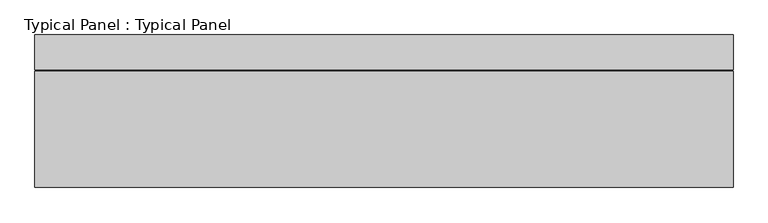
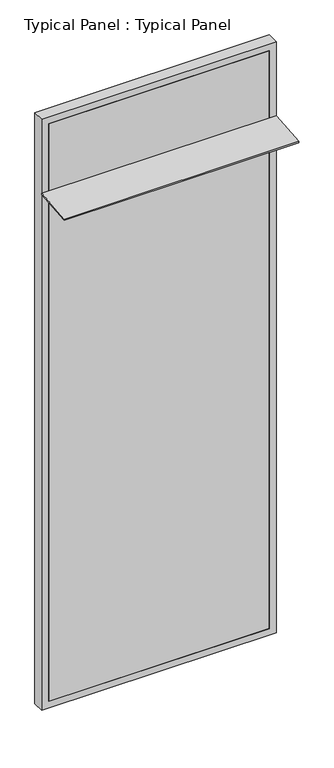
"""IFC4 building model written with IfcOpenShell, lengths in millimetres: plate geometry, Typical Panel : Typical Panel."""

from ifc_helpers import new_model, si_unit, frame, origin, place, context, project, spatial, polyline, outline, extrude, source, transform, mapped, element, save


def typical_panel_typical_panel_199775df(model_context):
    return source(origin(), model_context, "Body", "SweptSolid", [
        extrude(outline(polyline([(0.0, -250.0), (0.0, 0.0), (1500.0, 0.0), (1500.0, -250.0), (0.0, -250.0)])), frame((750.0, -253.1771171, 3468.2491173), z_axis=(0.0, -0.0871557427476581, 0.9961946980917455), x_axis=(-1.0, 0.0, 0.0)), (0.0, 0.0, 1.0), 10.0),
        extrude(outline(polyline([(0.0, -750.0), (0.0, 750.0), (4000.0, 750.0), (4000.0, -750.0), (0.0, -750.0)]), holes=[polyline([(45.0, 705.0), (45.0, -705.0), (3955.0, -705.0), (3955.0, 705.0), (45.0, 705.0)])]), frame((0.0, -1.5797986, 0.0), z_axis=(0.0, 1.0, 0.0), x_axis=(0.0, 0.0, 1.0)), (0.0, 0.0, 1.0), 75.0),
        extrude(outline(polyline([(705.0, -1.5797986), (-705.0, -1.5797986), (-705.0, 13.4202014), (705.0, 13.4202014), (705.0, -1.5797986)])), frame((0.0, 0.0, 45.0), z_axis=(0.0, 0.0, 1.0), x_axis=(1.0, 0.0, 0.0)), (0.0, 0.0, 1.0), 3910.0),
    ])


if __name__ == "__main__":
    model = new_model("IFC4")
    model_context = context("Model", 3, world=origin())
    ifc_project = project(units=[si_unit("LENGTHUNIT", "METRE", prefix="MILLI")], contexts=[model_context])
    site = spatial("IfcSite", under=ifc_project)
    building = spatial("IfcBuilding", under=site)
    placement = place(None, origin())
    typical_panel_typical_panel_shape = typical_panel_typical_panel_199775df(model_context)
    element("IfcPlate", 1, ObjectType="Typical Panel : Typical Panel", at=placement, inside=building, context=model_context, shape_type="MappedRepresentation", body=[
        mapped(typical_panel_typical_panel_shape, transform((0.0, 0.0, 0.0), x_axis=(1.0, 0.0, 0.0), y_axis=(0.0, 1.0, 0.0), z_axis=(0.0, 0.0, 1.0))),
    ])
    save(model, "model.ifc")
